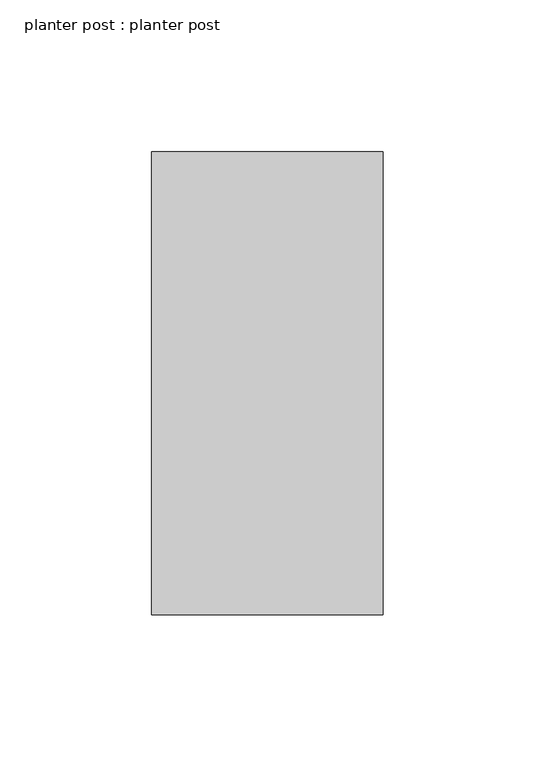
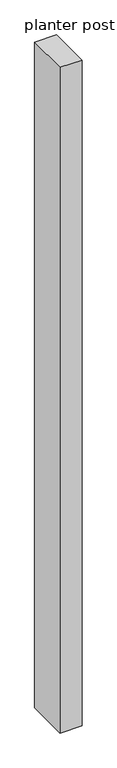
"""IFC4 building model written with IfcOpenShell, lengths in millimetres: column geometry, planter post : planter post."""

from ifc_helpers import new_model, si_unit, frame, origin, place, context, project, spatial, polyline, outline, extrude, source, transform, mapped, element, save


def planter_post_planter_post_0c11f8d3(model_context):
    return source(origin(), model_context, "Body", "SweptSolid", [
        extrude(outline(polyline([(27020.3779546, 203839.8449484), (27020.3779546, 203687.4449484), (26944.1779546, 203687.4449484), (26944.1779546, 203839.8449484), (27020.3779546, 203839.8449484)])), frame((0.0, 0.0, 294982.9), z_axis=(0.0, 0.0, 1.0), x_axis=(1.0, 0.0, 0.0)), (0.0, 0.0, 1.0), 2438.4),
    ])


if __name__ == "__main__":
    model = new_model("IFC4")
    model_context = context("Model", 3, world=origin())
    ifc_project = project(units=[si_unit("LENGTHUNIT", "METRE", prefix="MILLI")], contexts=[model_context])
    site = spatial("IfcSite", under=ifc_project)
    building = spatial("IfcBuilding", under=site)
    placement = place(None, origin())
    planter_post_planter_post_shape = planter_post_planter_post_0c11f8d3(model_context)
    element("IfcColumn", 1, ObjectType="planter post : planter post", at=placement, inside=building, context=model_context, shape_type="MappedRepresentation", body=[
        mapped(planter_post_planter_post_shape, transform((0.0, 0.0, 0.0), x_axis=(1.0, 0.0, 0.0), y_axis=(0.0, 1.0, 0.0), z_axis=(0.0, 0.0, 1.0))),
    ])
    save(model, "model.ifc")
